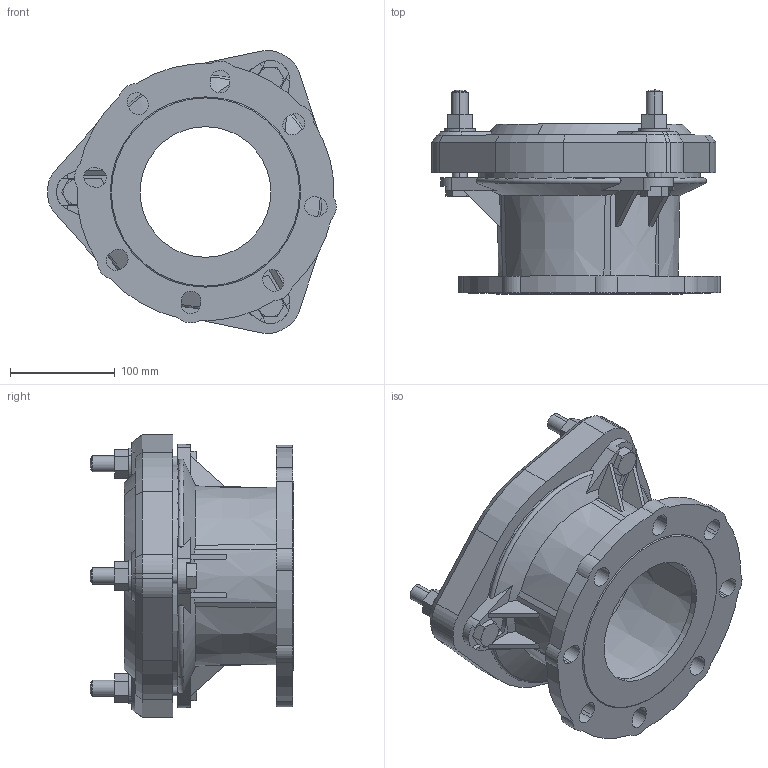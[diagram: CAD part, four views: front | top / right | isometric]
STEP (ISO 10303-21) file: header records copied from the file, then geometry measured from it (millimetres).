
FILE_DESCRIPTION((''),'2;1');
FILE_NAME('NEW_BIM_13199_7_ASM','2020-09-30T',('MReader'),(''),'CREO PARAMETRIC BY PTC INC, 2016130','CREO PARAMETRIC BY PTC INC, 2016130','');
FILE_SCHEMA(('CONFIG_CONTROL_DESIGN'));
Length unit declared in the file: millimetre
Products named in the file (4): BIM_12198_5; NEW_BIM_13190; HRH_M16_90_38; NEW_BIM_13199_7_ASM
Assembly tree (5 placements, depth 2):
  NEW_BIM_13199_7_ASM
    BIM_12198_5
    NEW_BIM_13190
    HRH_M16_90_38  x3
Bounding box: 275.9 x 195 x 270.65 mm (x, y, z)
Volume: 1953847.7 mm3; surface area: 448806.2 mm2
Topology: 5 solids, 8 shells, 353 faces, 921 edges, 591 vertices
Faces by surface type: plane 171, cylinder 96, cone 61, bspline 9, extrusion 6, sphere 6, torus 4
Entity records: 10172 total; most frequent: CARTESIAN_POINT 2369, ORIENTED_EDGE 1610, DIRECTION 1600, EDGE_CURVE 807, AXIS2_PLACEMENT_3D 568, VERTEX_POINT 521, VECTOR 464, LINE 458
